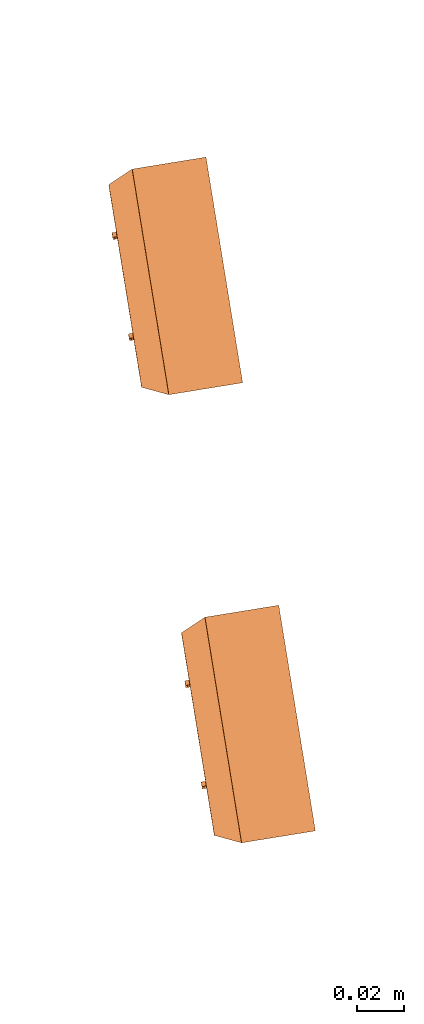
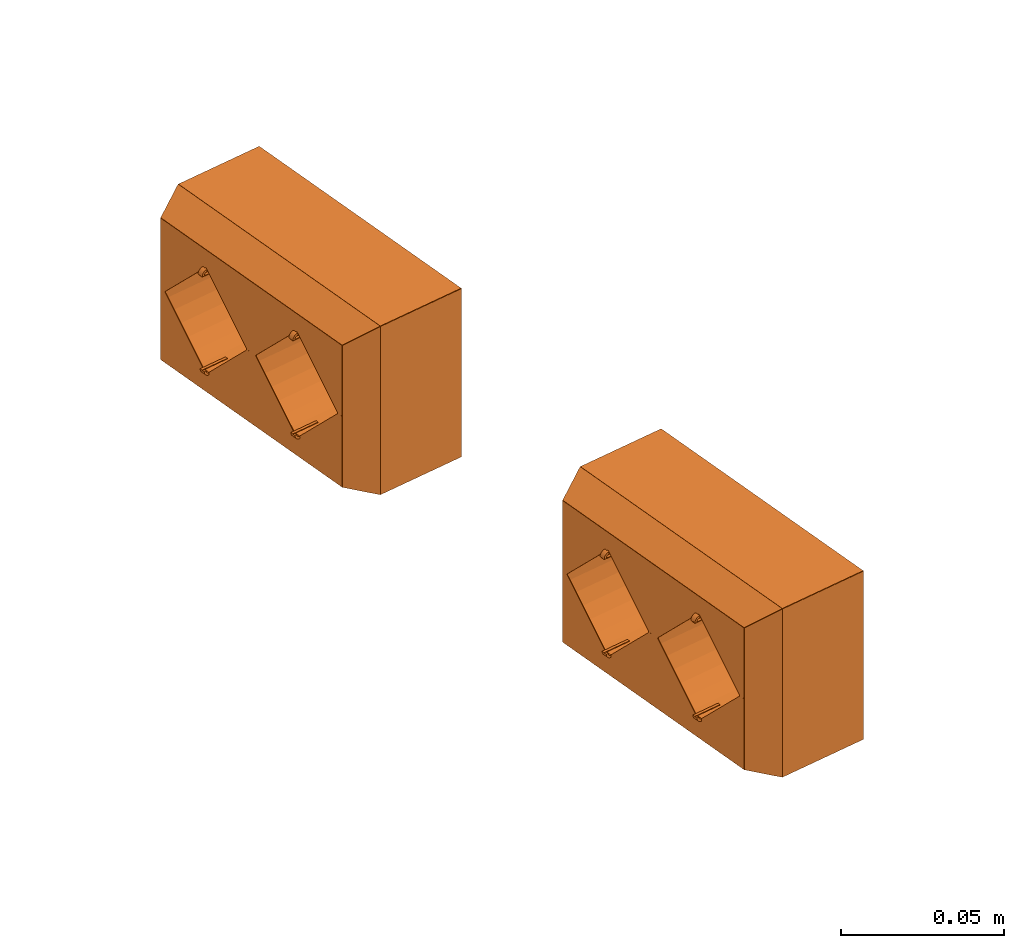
# One storey, part 26 of 33: 2 proxies.
"""IFC2X3 building model written with IfcOpenShell, lengths in millimetres."""

from ifc_helpers import new_model, entity, si_unit, converted_unit, derived_unit, direction, frame, frame_2d, origin, origin_with_axes, origin_2d_with_axis, place, context, subcontext, project, spatial, polyline, circle_curve, parameter, trimmed, segment, composite_curve, rectangle, circle, hollow_circle, outline, extrude, source, transform, mapped, material, type_object, element, save


model = new_model("IFC2X3")

# Units and contexts
plan_context = context("Plan", 3, precision=1e-05, world=origin_with_axes())
model_context = context("Model", 3, precision=0.01, world=origin(), true_north=direction((6.12323399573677e-17, 1.0)))
body_context = subcontext(model_context, "Body", "Model", "MODEL_VIEW")
ifc_project = project(units=[converted_unit("PLANEANGLEUNIT", "DEGREE", entity("IfcPositiveLengthMeasure", 0.0174532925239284), si_unit("PLANEANGLEUNIT", "RADIAN"), dimensions=[0, 0, 0, 0, 0, 0, 0]), si_unit("AREAUNIT", "SQUARE_METRE"), si_unit("LENGTHUNIT", "METRE", prefix="MILLI"), si_unit("MASSUNIT", "GRAM", prefix="KILO"), si_unit("POWERUNIT", "WATT"), si_unit("PRESSUREUNIT", "PASCAL", prefix="KILO"), si_unit("FORCEUNIT", "NEWTON", prefix="KILO"), si_unit("ELECTRICVOLTAGEUNIT", "VOLT"), si_unit("ELECTRICCURRENTUNIT", "AMPERE"), si_unit("THERMODYNAMICTEMPERATUREUNIT", "DEGREE_CELSIUS"), si_unit("TIMEUNIT", "SECOND"), si_unit("VOLUMEUNIT", "CUBIC_METRE"), derived_unit("LINEARVELOCITYUNIT", [(si_unit("LENGTHUNIT", "METRE"), 1), (si_unit("TIMEUNIT", "SECOND"), -1)]), derived_unit("VOLUMETRICFLOWRATEUNIT", [(si_unit("VOLUMEUNIT", "CUBIC_METRE"), 1), (si_unit("TIMEUNIT", "SECOND"), -1)]), derived_unit("THERMALTRANSMITTANCEUNIT", [(si_unit("POWERUNIT", "WATT"), 1), (si_unit("THERMODYNAMICTEMPERATUREUNIT", "KELVIN"), -1), (si_unit("AREAUNIT", "SQUARE_METRE"), -1)]), derived_unit("SOUNDPRESSUREUNIT", [(si_unit("PRESSUREUNIT", "PASCAL"), 1)])], contexts=[model_context, plan_context])

# Site, building, storey
site_placement = place(None, frame((-0.219946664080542, 0.12226179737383, 0.0), z_axis=(0.0, 0.0, 1.0), x_axis=(-0.160236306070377, 0.987078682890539, 0.0)))
site = spatial("IfcSite", under=ifc_project, at=site_placement, Name="Default", CompositionType="ELEMENT")
building_placement = place(site_placement, origin_with_axes())
building = spatial("IfcBuilding", under=site, at=building_placement, CompositionType="ELEMENT")
storey_placement = place(building_placement, frame((0.0, 0.0, 59000.0), z_axis=(0.0, 0.0, 1.0), x_axis=(1.0, 0.0, 0.0)))
storey = spatial("IfcBuildingStorey", under=building, at=storey_placement, Name="Nivå F", CompositionType="ELEMENT", Elevation=59000.0)

# Proxies
ifc_material = material(Name="<Unnamed>")
building_element_proxy_type = type_object("IfcBuildingElementProxyType", Name="Dobbel stikk på vegg 2P+J hor PH:EARTHED-SOCKET-2(HOR)", PredefinedType="NOTDEFINED", material=ifc_material)
shared_shape = source(origin(), body_context, "Body", "SweptSolid", [
    extrude(outline(composite_curve([segment(polyline([(-6.66666666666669, -6.66666666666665), (13.3333333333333, -6.66666666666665)]), True, "CONTINUOUS"), segment(trimmed(circle_curve(frame_2d((13.3333333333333, 13.3333333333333), x_axis=(0.0, -1.0)), 20.0), [parameter(270.0)], [parameter(5.08888749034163e-14)], True, "PARAMETER"), False, "CONTINUOUS"), segment(polyline([(-6.66666666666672, 13.3333333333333), (-6.66666666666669, -6.66666666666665)]), True, "CONTINUOUS")], self_intersect=False)), frame((35.3333333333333, 42.8999999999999, 13.3533333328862), z_axis=(0.0, 1.0, 0.0), x_axis=(0.0, 0.0, -1.0)), (0.0, 0.0, 1.0), 0.199999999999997),
    extrude(outline(composite_curve([segment(polyline([(-6.66666666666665, -6.66666666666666), (13.3333333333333, -6.66666666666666)]), True, "CONTINUOUS"), segment(trimmed(circle_curve(frame_2d((13.3333333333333, 13.3333333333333), x_axis=(-1.0, 0.0)), 20.0), [parameter(360.0)], [parameter(89.9999999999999)], True, "PARAMETER"), False, "CONTINUOUS"), segment(polyline([(-6.66666666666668, 13.3333333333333), (-6.66666666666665, -6.66666666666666)]), True, "CONTINUOUS")], self_intersect=False)), frame((35.3333333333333, 42.8999999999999, -13.3233333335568), z_axis=(0.0, 1.0, 0.0), x_axis=(-1.0, 0.0, 0.0)), (0.0, 0.0, 1.0), 0.199999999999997),
    extrude(outline(composite_curve([segment(polyline([(-6.66666666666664, -6.66666666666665), (13.3333333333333, -6.66666666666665)]), True, "CONTINUOUS"), segment(trimmed(circle_curve(frame_2d((13.3333333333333, 13.3333333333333), x_axis=(-1.0, 0.0)), 20.0), [parameter(0.0)], [parameter(89.9999999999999)], True, "PARAMETER"), False, "CONTINUOUS"), segment(polyline([(-6.66666666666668, 13.3333333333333), (-6.66666666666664, -6.66666666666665)]), True, "CONTINUOUS")], self_intersect=False)), frame((8.66666666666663, 42.8999999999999, 13.3433333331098), z_axis=(0.0, 1.0, 0.0), x_axis=(1.0, 0.0, 0.0)), (0.0, 0.0, 1.0), 0.199999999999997),
    extrude(outline(composite_curve([segment(polyline([(-6.66666666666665, -6.66666666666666), (13.3333333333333, -6.66666666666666)]), True, "CONTINUOUS"), segment(trimmed(circle_curve(frame_2d((13.3333333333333, 13.3333333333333), x_axis=(-1.0, 0.0)), 20.0), [parameter(360.0)], [parameter(89.9999999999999)], True, "PARAMETER"), False, "CONTINUOUS"), segment(polyline([(-6.66666666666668, 13.3333333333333), (-6.66666666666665, -6.66666666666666)]), True, "CONTINUOUS")], self_intersect=False)), frame((35.3333333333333, 42.8999999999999, -13.3433333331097), z_axis=(0.0, 1.0, 0.0), x_axis=(-1.0, 0.0, 0.0)), (0.0, 0.0, 1.0), 0.199999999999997),
    extrude(outline(composite_curve([segment(polyline([(-6.66666666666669, -6.66666666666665), (13.3333333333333, -6.66666666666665)]), True, "CONTINUOUS"), segment(trimmed(circle_curve(frame_2d((13.3333333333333, 13.3333333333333), x_axis=(0.0, -1.0)), 20.0), [parameter(270.0)], [parameter(5.08888749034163e-14)], True, "PARAMETER"), False, "CONTINUOUS"), segment(polyline([(-6.66666666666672, 13.3333333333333), (-6.66666666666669, -6.66666666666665)]), True, "CONTINUOUS")], self_intersect=False)), frame((35.3333333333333, 42.8999999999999, 13.3333333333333), z_axis=(0.0, 1.0, 0.0), x_axis=(0.0, 0.0, -1.0)), (0.0, 0.0, 1.0), 0.199999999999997),
    extrude(outline(composite_curve([segment(polyline([(-6.66666666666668, -6.66666666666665), (13.3333333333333, -6.66666666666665)]), True, "CONTINUOUS"), segment(trimmed(circle_curve(frame_2d((13.3333333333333, 13.3333333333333), x_axis=(0.0, -1.0)), 20.0), [parameter(270.0)], [parameter(0.0)], True, "PARAMETER"), False, "CONTINUOUS"), segment(polyline([(-6.66666666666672, 13.3333333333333), (-6.66666666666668, -6.66666666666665)]), True, "CONTINUOUS")], self_intersect=False)), frame((8.66666666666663, 42.8999999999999, -13.3333333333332), z_axis=(0.0, 1.0, 0.0), x_axis=(0.0, 0.0, 1.0)), (0.0, 0.0, 1.0), 0.199999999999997),
    extrude(outline(composite_curve([segment(polyline([(-6.66666666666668, -6.66666666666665), (13.3333333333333, -6.66666666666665)]), True, "CONTINUOUS"), segment(trimmed(circle_curve(frame_2d((13.3333333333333, 13.3333333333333), x_axis=(0.0, -1.0)), 20.0), [parameter(270.0)], [parameter(0.0)], True, "PARAMETER"), False, "CONTINUOUS"), segment(polyline([(-6.66666666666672, 13.3333333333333), (-6.66666666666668, -6.66666666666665)]), True, "CONTINUOUS")], self_intersect=False)), frame((-8.66666666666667, 42.8999999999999, 13.3533333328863), z_axis=(0.0, 1.0, 0.0), x_axis=(0.0, 0.0, -1.0)), (0.0, 0.0, 1.0), 0.199999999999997),
    extrude(outline(composite_curve([segment(polyline([(-6.66666666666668, -6.66666666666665), (13.3333333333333, -6.66666666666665)]), True, "CONTINUOUS"), segment(trimmed(circle_curve(frame_2d((13.3333333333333, 13.3333333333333), x_axis=(-1.0, 0.0)), 20.0), [parameter(0.0)], [parameter(90.0)], True, "PARAMETER"), False, "CONTINUOUS"), segment(polyline([(-6.66666666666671, 13.3333333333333), (-6.66666666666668, -6.66666666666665)]), True, "CONTINUOUS")], self_intersect=False)), frame((-8.66666666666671, 42.8999999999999, -13.3233333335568), z_axis=(0.0, 1.0, 0.0), x_axis=(-1.0, 0.0, 0.0)), (0.0, 0.0, 1.0), 0.199999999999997),
    extrude(outline(composite_curve([segment(polyline([(-6.66666666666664, -6.66666666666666), (13.3333333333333, -6.66666666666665)]), True, "CONTINUOUS"), segment(trimmed(circle_curve(frame_2d((13.3333333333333, 13.3333333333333), x_axis=(-1.0, 0.0)), 20.0), [parameter(360.0)], [parameter(89.9999999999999)], True, "PARAMETER"), False, "CONTINUOUS"), segment(polyline([(-6.66666666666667, 13.3333333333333), (-6.66666666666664, -6.66666666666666)]), True, "CONTINUOUS")], self_intersect=False)), frame((-35.3333333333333, 42.8999999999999, 13.3433333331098), z_axis=(0.0, 1.0, 0.0), x_axis=(1.0, 0.0, 0.0)), (0.0, 0.0, 1.0), 0.199999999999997),
    extrude(outline(composite_curve([segment(polyline([(-6.66666666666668, -6.66666666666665), (13.3333333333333, -6.66666666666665)]), True, "CONTINUOUS"), segment(trimmed(circle_curve(frame_2d((13.3333333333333, 13.3333333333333), x_axis=(-1.0, 0.0)), 20.0), [parameter(0.0)], [parameter(90.0)], True, "PARAMETER"), False, "CONTINUOUS"), segment(polyline([(-6.66666666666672, 13.3333333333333), (-6.66666666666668, -6.66666666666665)]), True, "CONTINUOUS")], self_intersect=False)), frame((-8.66666666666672, 42.8999999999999, -13.3433333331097), z_axis=(0.0, 1.0, 0.0), x_axis=(-1.0, 0.0, 0.0)), (0.0, 0.0, 1.0), 0.199999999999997),
    extrude(outline(composite_curve([segment(polyline([(-6.66666666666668, -6.66666666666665), (13.3333333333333, -6.66666666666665)]), True, "CONTINUOUS"), segment(trimmed(circle_curve(frame_2d((13.3333333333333, 13.3333333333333), x_axis=(0.0, -1.0)), 20.0), [parameter(270.0)], [parameter(0.0)], True, "PARAMETER"), False, "CONTINUOUS"), segment(polyline([(-6.66666666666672, 13.3333333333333), (-6.66666666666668, -6.66666666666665)]), True, "CONTINUOUS")], self_intersect=False)), frame((-8.66666666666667, 42.8999999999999, 13.3333333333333), z_axis=(0.0, 1.0, 0.0), x_axis=(0.0, 0.0, -1.0)), (0.0, 0.0, 1.0), 0.199999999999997),
    extrude(outline(composite_curve([segment(polyline([(-6.66666666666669, -6.66666666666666), (13.3333333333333, -6.66666666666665)]), True, "CONTINUOUS"), segment(trimmed(circle_curve(frame_2d((13.3333333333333, 13.3333333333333), x_axis=(0.0, -1.0)), 20.0), [parameter(270.0)], [parameter(5.08888749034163e-14)], True, "PARAMETER"), False, "CONTINUOUS"), segment(polyline([(-6.66666666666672, 13.3333333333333), (-6.66666666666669, -6.66666666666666)]), True, "CONTINUOUS")], self_intersect=False)), frame((-35.3333333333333, 42.8999999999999, -13.3333333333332), z_axis=(0.0, 1.0, 0.0), x_axis=(0.0, 0.0, 1.0)), (0.0, 0.0, 1.0), 0.199999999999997),
    extrude(rectangle(XDim=9.99999999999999, YDim=1.0, at=frame_2d((0.0, 2.1094237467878e-15), x_axis=(1.0, 0.0))), frame((22.0, 40.0, -17.6), z_axis=(0.0, 0.0, 1.0), x_axis=(0.0, -1.0, 0.0)), (0.0, 0.0, 1.0), 0.199999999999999),
    extrude(rectangle(XDim=21.5, YDim=1.0, at=frame_2d((0.0, 8.43769498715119e-15), x_axis=(1.0, 0.0))), frame((22.0, 32.25, -19.6), z_axis=(0.0, 0.0, 1.0), x_axis=(0.0, -1.0, 0.0)), (0.0, 0.0, 1.0), 0.200000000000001),
    extrude(rectangle(XDim=9.99999999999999, YDim=1.0, at=frame_2d((0.0, 2.1094237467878e-15), x_axis=(1.0, 0.0))), frame((22.0, 40.0, 17.4), z_axis=(0.0, 0.0, 1.0), x_axis=(0.0, -1.0, 0.0)), (0.0, 0.0, 1.0), 0.199999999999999),
    extrude(rectangle(XDim=21.5, YDim=1.0, at=frame_2d((0.0, 8.43769498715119e-15), x_axis=(1.0, 0.0))), frame((22.0, 32.25, 19.4), z_axis=(0.0, 0.0, 1.0), x_axis=(0.0, -1.0, 0.0)), (0.0, 0.0, 1.0), 0.200000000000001),
    extrude(rectangle(XDim=9.99999999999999, YDim=1.0, at=frame_2d((0.0, -2.1094237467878e-15), x_axis=(1.0, 0.0))), frame((-22.0, 40.0, -17.6), z_axis=(0.0, 0.0, 1.0), x_axis=(0.0, -1.0, 0.0)), (0.0, 0.0, 1.0), 0.199999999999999),
    extrude(rectangle(XDim=21.5, YDim=1.0, at=frame_2d((0.0, 8.43769498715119e-15), x_axis=(1.0, 0.0))), frame((-22.0, 32.25, -19.6), z_axis=(0.0, 0.0, 1.0), x_axis=(0.0, -1.0, 0.0)), (0.0, 0.0, 1.0), 0.200000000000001),
    extrude(rectangle(XDim=9.99999999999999, YDim=1.0, at=frame_2d((0.0, -2.1094237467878e-15), x_axis=(1.0, 0.0))), frame((-22.0, 40.0, 17.4), z_axis=(0.0, 0.0, 1.0), x_axis=(0.0, -1.0, 0.0)), (0.0, 0.0, 1.0), 0.199999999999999),
    extrude(rectangle(XDim=21.5, YDim=1.0, at=frame_2d((0.0, 8.43769498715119e-15), x_axis=(1.0, 0.0))), frame((-22.0, 32.25, 19.4), z_axis=(0.0, 0.0, 1.0), x_axis=(0.0, -1.0, 0.0)), (0.0, 0.0, 1.0), 0.200000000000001),
    extrude(rectangle(XDim=0.199999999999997, YDim=2.0, at=frame_2d((4.2257863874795e-15, 0.0), x_axis=(1.0, 0.0))), frame((43.0, 43.0, 0.0199999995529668), z_axis=(0.0, 0.0, 1.0), x_axis=(0.0, 1.0, 0.0)), (0.0, 0.0, 1.0), 20.0),
    extrude(rectangle(XDim=0.199999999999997, YDim=40.0, at=frame_2d((4.2257863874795e-15, 0.0), x_axis=(1.0, 0.0))), frame((22.0, 43.0, 20.0199999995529), z_axis=(0.0, 0.0, 1.0), x_axis=(0.0, 1.0, 0.0)), (0.0, 0.0, 1.0), 6.5),
    extrude(rectangle(XDim=0.199999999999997, YDim=2.0, at=frame_2d((4.2257863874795e-15, 0.0), x_axis=(1.0, 0.0))), frame((43.0, 43.0, -19.9900000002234), z_axis=(0.0, 0.0, 1.0), x_axis=(0.0, -1.0, 0.0)), (0.0, 0.0, 1.0), 20.0),
    extrude(rectangle(XDim=0.199999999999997, YDim=40.0, at=frame_2d((4.2257863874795e-15, 0.0), x_axis=(1.0, 0.0))), frame((22.0, 43.0, -26.4900000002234), z_axis=(0.0, 0.0, 1.0), x_axis=(0.0, -1.0, 0.0)), (0.0, 0.0, 1.0), 6.49999999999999),
    extrude(rectangle(XDim=0.199999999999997, YDim=2.0, at=frame_2d((4.2257863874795e-15, 0.0), x_axis=(1.0, 0.0))), frame((1.0, 43.0, 0.00999999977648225), z_axis=(0.0, 0.0, 1.0), x_axis=(0.0, -1.0, 0.0)), (0.0, 0.0, 1.0), 20.0),
    extrude(rectangle(XDim=0.199999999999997, YDim=2.0, at=frame_2d((4.2257863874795e-15, 0.0), x_axis=(1.0, 0.0))), frame((43.0, 43.0, -20.0099999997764), z_axis=(0.0, 0.0, 1.0), x_axis=(0.0, -1.0, 0.0)), (0.0, 0.0, 1.0), 20.0),
    extrude(rectangle(XDim=0.199999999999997, YDim=40.0, at=frame_2d((4.2257863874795e-15, 0.0), x_axis=(1.0, 0.0))), frame((22.0, 43.0, -26.5099999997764), z_axis=(0.0, 0.0, 1.0), x_axis=(0.0, -1.0, 0.0)), (0.0, 0.0, 1.0), 6.5),
    extrude(rectangle(XDim=0.199999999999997, YDim=2.0, at=frame_2d((4.2257863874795e-15, 0.0), x_axis=(1.0, 0.0))), frame((43.0, 43.0, 0.0), z_axis=(0.0, 0.0, 1.0), x_axis=(0.0, 1.0, 0.0)), (0.0, 0.0, 1.0), 20.0),
    extrude(rectangle(XDim=0.199999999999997, YDim=40.0, at=frame_2d((4.2257863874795e-15, 0.0), x_axis=(1.0, 0.0))), frame((22.0, 43.0, 20.0), z_axis=(0.0, 0.0, 1.0), x_axis=(0.0, 1.0, 0.0)), (0.0, 0.0, 1.0), 6.5),
    extrude(rectangle(XDim=0.199999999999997, YDim=2.0, at=frame_2d((4.2257863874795e-15, 0.0), x_axis=(1.0, 0.0))), frame((1.0, 43.0, -20.0), z_axis=(0.0, 0.0, 1.0), x_axis=(0.0, 1.0, 0.0)), (0.0, 0.0, 1.0), 20.0),
    extrude(rectangle(XDim=0.199999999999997, YDim=2.0, at=frame_2d((4.2257863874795e-15, 0.0), x_axis=(1.0, 0.0))), frame((-1.0, 43.0, 0.0199999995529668), z_axis=(0.0, 0.0, 1.0), x_axis=(0.0, 1.0, 0.0)), (0.0, 0.0, 1.0), 20.0),
    extrude(rectangle(XDim=0.199999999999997, YDim=40.0, at=frame_2d((4.2257863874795e-15, 0.0), x_axis=(1.0, 0.0))), frame((-22.0, 43.0, 20.0199999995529), z_axis=(0.0, 0.0, 1.0), x_axis=(0.0, 1.0, 0.0)), (0.0, 0.0, 1.0), 6.5),
    extrude(rectangle(XDim=0.199999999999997, YDim=2.0, at=frame_2d((4.2257863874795e-15, 0.0), x_axis=(1.0, 0.0))), frame((-1.0, 43.0, -19.9900000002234), z_axis=(0.0, 0.0, 1.0), x_axis=(0.0, -1.0, 0.0)), (0.0, 0.0, 1.0), 20.0),
    extrude(rectangle(XDim=0.199999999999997, YDim=40.0, at=frame_2d((4.2257863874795e-15, 0.0), x_axis=(1.0, 0.0))), frame((-22.0, 43.0, -26.4900000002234), z_axis=(0.0, 0.0, 1.0), x_axis=(0.0, -1.0, 0.0)), (0.0, 0.0, 1.0), 6.49999999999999),
    extrude(rectangle(XDim=0.199999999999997, YDim=1.99999999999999, at=frame_2d((4.2257863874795e-15, 4.2188474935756e-15), x_axis=(1.0, 0.0))), frame((-43.0, 43.0, 0.00999999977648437), z_axis=(0.0, 0.0, 1.0), x_axis=(0.0, -1.0, 0.0)), (0.0, 0.0, 1.0), 20.0),
    extrude(rectangle(XDim=0.199999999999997, YDim=2.0, at=frame_2d((4.2257863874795e-15, 0.0), x_axis=(1.0, 0.0))), frame((-1.0, 43.0, -20.0099999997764), z_axis=(0.0, 0.0, 1.0), x_axis=(0.0, -1.0, 0.0)), (0.0, 0.0, 1.0), 20.0),
    extrude(rectangle(XDim=0.199999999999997, YDim=40.0, at=frame_2d((4.2257863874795e-15, 0.0), x_axis=(1.0, 0.0))), frame((-22.0, 43.0, -26.5099999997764), z_axis=(0.0, 0.0, 1.0), x_axis=(0.0, -1.0, 0.0)), (0.0, 0.0, 1.0), 6.5),
    extrude(rectangle(XDim=0.199999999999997, YDim=2.0, at=frame_2d((4.2257863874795e-15, 0.0), x_axis=(1.0, 0.0))), frame((-1.0, 43.0, 0.0), z_axis=(0.0, 0.0, 1.0), x_axis=(0.0, 1.0, 0.0)), (0.0, 0.0, 1.0), 20.0),
    extrude(rectangle(XDim=0.199999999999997, YDim=40.0, at=frame_2d((4.2257863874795e-15, 0.0), x_axis=(1.0, 0.0))), frame((-22.0, 43.0, 20.0), z_axis=(0.0, 0.0, 1.0), x_axis=(0.0, 1.0, 0.0)), (0.0, 0.0, 1.0), 6.5),
    extrude(rectangle(XDim=0.199999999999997, YDim=1.99999999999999, at=frame_2d((4.2257863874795e-15, -4.2188474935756e-15), x_axis=(1.0, 0.0))), frame((-43.0, 43.0, -20.0), z_axis=(0.0, 0.0, 1.0), x_axis=(0.0, 1.0, 0.0)), (0.0, 0.0, 1.0), 20.0),
    extrude(rectangle(XDim=0.199999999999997, YDim=2.0, at=frame_2d((4.2257863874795e-15, 0.0), x_axis=(1.0, 0.0))), frame((-1.0, 43.0, -26.5), z_axis=(0.0, 0.0, 1.0), x_axis=(0.0, 1.0, 0.0)), (0.0, 0.0, 1.0), 6.49999999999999),
    extrude(rectangle(XDim=0.199999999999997, YDim=1.99999999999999, at=frame_2d((4.2257863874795e-15, 4.2188474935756e-15), x_axis=(1.0, 0.0))), frame((-43.0, 43.0, -26.5), z_axis=(0.0, 0.0, 1.0), x_axis=(0.0, 1.0, 0.0)), (0.0, 0.0, 1.0), 6.49999999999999),
    extrude(rectangle(XDim=0.199999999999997, YDim=2.0, at=frame_2d((4.2257863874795e-15, 0.0), x_axis=(1.0, 0.0))), frame((1.0, 43.0, -26.5), z_axis=(0.0, 0.0, 1.0), x_axis=(0.0, 1.0, 0.0)), (0.0, 0.0, 1.0), 6.49999999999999),
    extrude(rectangle(XDim=0.199999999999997, YDim=1.99999999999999, at=frame_2d((4.2257863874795e-15, -4.2188474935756e-15), x_axis=(1.0, 0.0))), frame((43.0, 43.0, -26.5), z_axis=(0.0, 0.0, 1.0), x_axis=(0.0, 1.0, 0.0)), (0.0, 0.0, 1.0), 6.49999999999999),
    extrude(outline(polyline([(-24.3180677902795, -42.966633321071), (-11.2413709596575, -42.9666333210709), (22.4062700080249, 38.3465652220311), (13.1531687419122, 47.5867014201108), (-24.3180677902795, -42.966633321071)])), frame((0.0, 37.5413802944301, -29.0910366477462), z_axis=(0.0, -0.413802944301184, 0.910366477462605), x_axis=(-0.382359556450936, 0.84119102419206, 0.382359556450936)), (0.0, 0.0, 1.0), 0.199999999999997),
    extrude(outline(polyline([(-31.5, -6.04152298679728), (31.5, -6.04152298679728), (26.5, 6.04152298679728), (-26.5, 6.04152298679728), (-31.5, -6.04152298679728)])), frame((-46.5910366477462, 37.5413802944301, 0.0), z_axis=(0.910366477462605, -0.413802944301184, 0.0), x_axis=(0.0, 0.0, -1.0)), (0.0, 0.0, 1.0), 0.200000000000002),
    extrude(outline(polyline([(-31.5, -6.04152298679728), (31.5, -6.04152298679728), (26.5, 6.04152298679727), (-26.5, 6.04152298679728), (-31.5, -6.04152298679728)])), frame((46.4089633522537, 37.4586197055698, 0.0), z_axis=(0.910366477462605, 0.413802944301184, 0.0), x_axis=(0.0, 0.0, -1.0)), (0.0, 0.0, 1.0), 0.199999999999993),
    extrude(rectangle(XDim=32.0, YDim=97.9999999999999, at=frame_2d((1.77635683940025e-15, 0.0), x_axis=(1.0, 0.0))), frame((0.0, 16.0, -31.6), z_axis=(0.0, 0.0, 1.0), x_axis=(0.0, -1.0, 0.0)), (0.0, 0.0, 1.0), 0.200000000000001),
    extrude(rectangle(XDim=0.199999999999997, YDim=2.0, at=frame_2d((4.2257863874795e-15, 0.0), x_axis=(1.0, 0.0))), frame((-1.0, 43.0, 20.0), z_axis=(0.0, 0.0, 1.0), x_axis=(0.0, 1.0, 0.0)), (0.0, 0.0, 1.0), 6.49999999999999),
    extrude(rectangle(XDim=0.199999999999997, YDim=1.99999999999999, at=frame_2d((4.2257863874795e-15, 4.2188474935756e-15), x_axis=(1.0, 0.0))), frame((-43.0, 43.0, 20.0), z_axis=(0.0, 0.0, 1.0), x_axis=(0.0, 1.0, 0.0)), (0.0, 0.0, 1.0), 6.49999999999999),
    extrude(outline(polyline([(-44.0, -6.04152298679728), (44.0, -6.04152298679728), (49.0, 6.04152298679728), (-49.0, 6.04152298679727), (-44.0, -6.04152298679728)])), frame((0.0, 37.4586197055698, 28.9089633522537), z_axis=(0.0, 0.413802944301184, 0.910366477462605), x_axis=(-1.0, 0.0, 0.0)), (0.0, 0.0, 1.0), 0.200000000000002),
    extrude(rectangle(XDim=0.199999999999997, YDim=2.0, at=frame_2d((4.2257863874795e-15, 0.0), x_axis=(1.0, 0.0))), frame((1.0, 43.0, 20.0), z_axis=(0.0, 0.0, 1.0), x_axis=(0.0, 1.0, 0.0)), (0.0, 0.0, 1.0), 6.49999999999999),
    extrude(rectangle(XDim=0.199999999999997, YDim=1.99999999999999, at=frame_2d((4.2257863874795e-15, -4.2188474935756e-15), x_axis=(1.0, 0.0))), frame((43.0, 43.0, 20.0), z_axis=(0.0, 0.0, 1.0), x_axis=(0.0, 1.0, 0.0)), (0.0, 0.0, 1.0), 6.49999999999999),
    extrude(rectangle(XDim=32.0, YDim=97.9999999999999, at=frame_2d((1.77635683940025e-15, 0.0), x_axis=(1.0, 0.0))), frame((0.0, 16.0, 31.4), z_axis=(0.0, 0.0, 1.0), x_axis=(0.0, -1.0, 0.0)), (0.0, 0.0, 1.0), 0.200000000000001),
    extrude(rectangle(XDim=0.199999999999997, YDim=32.0, at=frame_2d((-4.2257863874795e-15, 0.0), x_axis=(1.0, 0.0))), frame((49.0, 16.0, -31.5)), (0.0, 0.0, 1.0), 62.9999999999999),
    extrude(rectangle(XDim=0.199999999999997, YDim=32.0, at=frame_2d((-4.2257863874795e-15, 0.0), x_axis=(1.0, 0.0))), frame((-49.0, 16.0, -31.5)), (0.0, 0.0, 1.0), 62.9999999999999),
    extrude(rectangle(XDim=0.2, YDim=97.9999999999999, at=origin_2d_with_axis()), frame((0.0, 0.0, -31.5), z_axis=(0.0, 0.0, 1.0), x_axis=(0.0, 1.0, 0.0)), (0.0, 0.0, 1.0), 62.9999999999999),
    extrude(circle(Radius=2.5, at=frame_2d((0.0, -4.22994972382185e-15), x_axis=(1.0, 0.0))), frame((32.0, 21.450000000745, 0.0), z_axis=(0.0, 1.0, 0.0), x_axis=(0.0, 0.0, 1.0)), (0.0, 0.0, 1.0), 0.200000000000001),
    extrude(circle(Radius=2.5, at=frame_2d((0.0, -4.22994972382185e-15), x_axis=(1.0, 0.0))), frame((12.0, 21.450000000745, 0.0), z_axis=(0.0, 1.0, 0.0), x_axis=(0.0, 0.0, 1.0)), (0.0, 0.0, 1.0), 0.200000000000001),
    extrude(circle(Radius=2.5, at=frame_2d((0.0, -4.22994972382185e-15), x_axis=(1.0, 0.0))), frame((-12.0, 21.450000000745, 0.0), z_axis=(0.0, 1.0, 0.0), x_axis=(0.0, 0.0, 1.0)), (0.0, 0.0, 1.0), 0.200000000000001),
    extrude(circle(Radius=2.5, at=frame_2d((0.0, -4.22994972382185e-15), x_axis=(1.0, 0.0))), frame((-32.0, 21.450000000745, 0.0), z_axis=(0.0, 1.0, 0.0), x_axis=(0.0, 0.0, 1.0)), (0.0, 0.0, 1.0), 0.200000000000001),
    extrude(circle(Radius=20.0, at=frame_2d((0.0, -2.96096480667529e-14), x_axis=(1.0, 0.0))), frame((22.0, 21.4, 0.0), z_axis=(0.0, 1.0, 0.0), x_axis=(0.0, 0.0, 1.0)), (0.0, 0.0, 1.0), 0.200000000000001),
    extrude(circle(Radius=20.0, at=frame_2d((0.0, -2.96096480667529e-14), x_axis=(1.0, 0.0))), frame((-22.0, 21.4, 0.0), z_axis=(0.0, 1.0, 0.0), x_axis=(0.0, 0.0, 1.0)), (0.0, 0.0, 1.0), 0.200000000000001),
    extrude(outline(composite_curve([segment(trimmed(circle_curve(frame_2d((-0.800000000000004, 0.800000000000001), x_axis=(1.0, 0.0)), 2.0), [parameter(270.0)], [parameter(0.0)], True, "PARAMETER"), True, "CONTINUOUS"), segment(polyline([(1.2, 0.8), (0.399999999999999, 0.8)]), True, "CONTINUOUS"), segment(trimmed(circle_curve(frame_2d((-0.800000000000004, 0.799999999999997), x_axis=(0.0, -1.0)), 1.2), [parameter(0.0)], [parameter(89.9999999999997)], True, "PARAMETER"), False, "CONTINUOUS"), segment(polyline([(-0.799999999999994, -0.400000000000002), (-0.799999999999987, -1.2)]), True, "CONTINUOUS")], self_intersect=False)), frame((20.5, 43.7999999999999, -18.3), z_axis=(1.0, 0.0, 0.0), x_axis=(0.0, 1.0, 0.0)), (0.0, 0.0, 1.0), 2.0),
    extrude(outline(composite_curve([segment(polyline([(-1.2, -0.800000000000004), (-0.399999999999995, -0.800000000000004)]), True, "CONTINUOUS"), segment(trimmed(circle_curve(frame_2d((0.800000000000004, -0.800000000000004), x_axis=(-1.0, 0.0)), 1.2), [parameter(270.0)], [parameter(0.0)], True, "PARAMETER"), False, "CONTINUOUS"), segment(polyline([(0.799999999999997, 0.399999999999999), (0.79999999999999, 1.2)]), True, "CONTINUOUS"), segment(trimmed(circle_curve(frame_2d((0.800000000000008, -0.800000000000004), x_axis=(0.0, 1.0)), 2.0), [parameter(0.0)], [parameter(89.9999999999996)], True, "PARAMETER"), True, "CONTINUOUS")], self_intersect=False)), frame((21.5, 43.8, 18.3), z_axis=(1.0, 0.0, 0.0), x_axis=(0.0, 0.0, -1.0)), (0.0, 0.0, 1.0), 2.0),
    extrude(outline(composite_curve([segment(trimmed(circle_curve(frame_2d((-0.800000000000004, 0.800000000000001), x_axis=(1.0, 0.0)), 2.0), [parameter(270.0)], [parameter(0.0)], True, "PARAMETER"), True, "CONTINUOUS"), segment(polyline([(1.2, 0.8), (0.399999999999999, 0.8)]), True, "CONTINUOUS"), segment(trimmed(circle_curve(frame_2d((-0.800000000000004, 0.799999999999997), x_axis=(0.0, -1.0)), 1.2), [parameter(0.0)], [parameter(89.9999999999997)], True, "PARAMETER"), False, "CONTINUOUS"), segment(polyline([(-0.799999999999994, -0.400000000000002), (-0.799999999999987, -1.2)]), True, "CONTINUOUS")], self_intersect=False)), frame((-23.5, 43.7999999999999, -18.3), z_axis=(1.0, 0.0, 0.0), x_axis=(0.0, 1.0, 0.0)), (0.0, 0.0, 1.0), 2.0),
    extrude(outline(composite_curve([segment(polyline([(-1.2, -0.800000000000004), (-0.399999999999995, -0.800000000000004)]), True, "CONTINUOUS"), segment(trimmed(circle_curve(frame_2d((0.800000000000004, -0.800000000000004), x_axis=(-1.0, 0.0)), 1.2), [parameter(270.0)], [parameter(0.0)], True, "PARAMETER"), False, "CONTINUOUS"), segment(polyline([(0.799999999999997, 0.399999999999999), (0.79999999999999, 1.2)]), True, "CONTINUOUS"), segment(trimmed(circle_curve(frame_2d((0.800000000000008, -0.800000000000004), x_axis=(0.0, 1.0)), 2.0), [parameter(0.0)], [parameter(89.9999999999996)], True, "PARAMETER"), True, "CONTINUOUS")], self_intersect=False)), frame((-22.5, 43.8, 18.3), z_axis=(1.0, 0.0, 0.0), x_axis=(0.0, 0.0, -1.0)), (0.0, 0.0, 1.0), 2.0),
    extrude(hollow_circle(Radius=20.0, WallThickness=0.199999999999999, at=frame_2d((0.0, -2.96096480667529e-14), x_axis=(1.0, 0.0))), frame((22.0, 21.5, 0.0), z_axis=(0.0, 1.0, 0.0), x_axis=(0.0, 0.0, 1.0)), (0.0, 0.0, 1.0), 21.5),
    extrude(hollow_circle(Radius=20.0, WallThickness=0.199999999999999, at=frame_2d((0.0, -2.96096480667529e-14), x_axis=(1.0, 0.0))), frame((-22.0, 21.5, 0.0), z_axis=(0.0, 1.0, 0.0), x_axis=(0.0, 0.0, 1.0)), (0.0, 0.0, 1.0), 21.5),
])
for number, where, z_axis, x_axis in (
    (1, (776990.747623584, -504502.280501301, 500.0), (0.0, 0.0, 1.0), (1.0, 0.0, 0.0)),
    (2, (776795.747623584, -504502.280501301, 500.0), (0.0, 0.0, 1.0), (1.0, 0.0, 0.0)),
):
    element("IfcBuildingElementProxy", number, at=place(storey_placement, frame(where, z_axis=z_axis, x_axis=x_axis)), inside=storey, type_object=building_element_proxy_type, material=ifc_material, Name="Dobbel stikk på vegg 2P+J hor PH:EARTHED-SOCKET-2(HOR)", ObjectType="Dobbel stikk på vegg 2P+J hor PH:EARTHED-SOCKET-2(HOR)", context=body_context, shape_type="MappedRepresentation", body=[
        mapped(shared_shape, transform((0.0, 0.0, 0.0), scale=1.0)),
    ])

save(model, "model.ifc")
